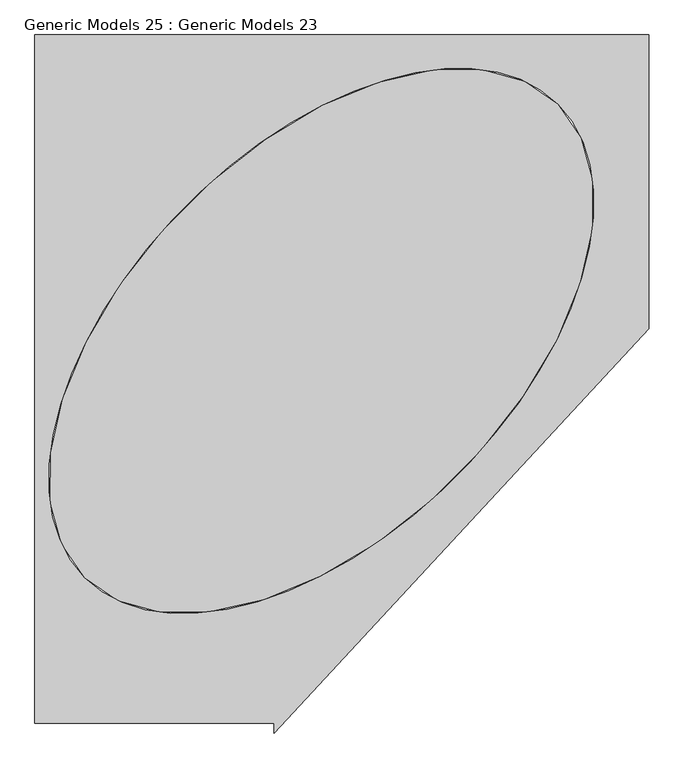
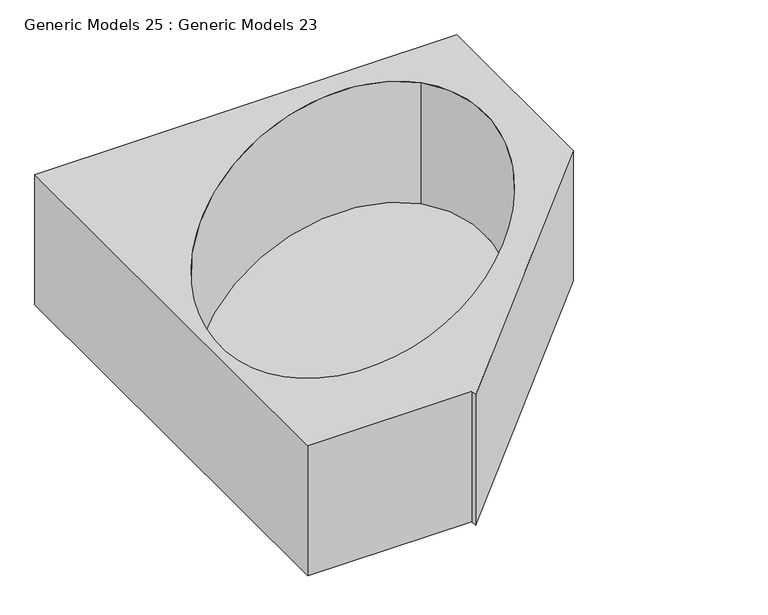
"""IFC4 building model written with IfcOpenShell, lengths in millimetres: proxy geometry, Generic Models 25 : Generic Models 23."""

from ifc_helpers import new_model, si_unit, point, frame, origin, place, context, project, spatial, ellipse_curve, trimmed, source, transform, mapped, element, save
from ifc_brep_helpers import plane_surface, extruded_surface, advanced_brep


def generic_models_25_generic_models_23_44e64f11(model_context):
    return source(origin(), model_context, "Body", "AdvancedBrep", [
        advanced_brep(
        [(-1758.95, 14477.8947939, 3784.6), (-1758.95, 12649.0947939, 3784.6), (-1123.95, 12649.0947939, 3784.6), (-1123.95, 12623.6947939, 3784.6), (-127.0, 13696.8447939, 3784.6), (-127.0, 14477.8947939, 3784.6), (-369.0158933, 14293.9147863, 3784.6), (-1626.2517503, 13036.6789293, 3784.6), (-1758.95, 14477.8947939, 3251.2), (-127.0, 14477.8947939, 3251.2), (-127.0, 13696.8447939, 3251.2), (-1111.25, 12637.3654945, 3251.2), (-1123.95, 12623.6947939, 3251.2), (-1123.95, 12649.0947939, 3251.2), (-1758.95, 12649.0947939, 3251.2), (-1123.95, 12623.6947939, 3378.2), (-369.0158933, 14293.9147863, 3289.3), (-1626.2517503, 13036.6789293, 3289.3)],
        [
            (0, 1),
            (1, 2),
            (2, 3),
            (3, 4),
            (4, 5),
            (5, 0),
            (6, 7, ellipse_curve(frame((-997.6338218, 13665.2968578, 3784.6), z_axis=(0.0, 0.0, -1.0000000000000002), x_axis=(-0.7071067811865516, -0.7071067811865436, 0.0)), 889.0, 508.0)),
            (7, 6, ellipse_curve(frame((-997.6338218, 13665.2968578, 3784.6), z_axis=(0.0, 0.0, -1.0000000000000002), x_axis=(-0.7071067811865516, -0.7071067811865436, 0.0)), 889.0, 508.0)),
            (8, 9),
            (9, 10),
            (10, 11),
            (11, 12),
            (12, 13),
            (13, 14),
            (14, 8),
            (0, 8),
            (14, 1),
            (3, 15),
            (15, 12),
            (10, 4),
            (9, 5),
            (16, 17, ellipse_curve(frame((-997.6338218, 13665.2968578, 3289.3), z_axis=(0.0, 0.0, 1.0000000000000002), x_axis=(-0.7071067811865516, -0.7071067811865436, 0.0)), 889.0, 508.0)),
            (17, 16, ellipse_curve(frame((-997.6338218, 13665.2968578, 3289.3), z_axis=(0.0, 0.0, 1.0000000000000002), x_axis=(-0.7071067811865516, -0.7071067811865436, 0.0)), 889.0, 508.0)),
            (17, 7),
            (6, 16),
            (13, 2),
        ],
        [
            plane_surface(frame((-1758.95, 12649.0947939, 3784.6), z_axis=(0.0, 0.0, 1.0), x_axis=(0.0, -1.0, 0.0))),
            plane_surface(frame((-1758.95, 12649.0947939, 3251.2), z_axis=(0.0, 0.0, -1.0), x_axis=(0.0, 1.0, 0.0))),
            plane_surface(frame((-1758.95, 14477.8947939, 3784.6), z_axis=(-1.0, 0.0, 0.0), x_axis=(0.0, 0.0, -1.0))),
            plane_surface(frame((-1123.95, 12623.6947939, 3784.6), z_axis=(0.7326390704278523, -0.6806173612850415, 0.0), x_axis=(0.0, 0.0, -1.0))),
            plane_surface(frame((-127.0, 13696.8447939, 3784.6), z_axis=(1.0, 0.0, 0.0), x_axis=(0.0, 0.0, -1.0))),
            plane_surface(frame((-127.0, 14477.8947939, 3784.6), z_axis=(0.0, 1.0, 0.0), x_axis=(0.0, 0.0, -1.0))),
            plane_surface(frame((-1626.2517503, 13036.6789293, 3289.3), z_axis=(0.0, 0.0, 1.0000000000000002), x_axis=(-0.7071067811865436, 0.7071067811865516, 0.0))),
            extruded_surface(trimmed(ellipse_curve(frame((-997.6338218, 13665.2968578, 3784.6), z_axis=(0.0, 0.0, -1.0000000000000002), x_axis=(-0.7071067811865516, -0.7071067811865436, 0.0)), 889.0, 508.0), [point((-369.0158933, 14293.9147863, 3784.6))], [point((-1626.2517503, 13036.6789293, 3784.6))], True, "CARTESIAN"), (0.0, 0.0, 495.2999999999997), 495.2999999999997),
            extruded_surface(trimmed(ellipse_curve(frame((-997.6338218, 13665.2968578, 3784.6), z_axis=(0.0, 0.0, -1.0000000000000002), x_axis=(-0.7071067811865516, -0.7071067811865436, 0.0)), 889.0, 508.0), [point((-1626.2517503, 13036.6789293, 3784.6))], [point((-369.0158933, 14293.9147863, 3784.6))], True, "CARTESIAN"), (0.0, 0.0, 495.2999999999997), 495.2999999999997),
            plane_surface(frame((-1758.95, 12649.0947939, 3784.6), z_axis=(0.0, -1.0, 0.0), x_axis=(0.0, 0.0, -1.0))),
            plane_surface(frame((-1123.95, 12649.0947939, 3784.6), z_axis=(-1.0, 0.0, 0.0), x_axis=(0.0, 0.0, -1.0))),
        ],
        [
            (0, [[1, 2, 3, 4, 5, 6], [7, 8]]),
            (1, [[9, 10, 11, 12, 13, 14, 15]]),
            (2, [[-1, 16, -15, 17]]),
            (3, [[-4, 18, 19, -12, -11, 20]]),
            (4, [[-5, -20, -10, 21]]),
            (5, [[-6, -21, -9, -16]]),
            (6, [[22, 23]]),
            (7, [[-23, 24, -7, 25]]),
            (8, [[-22, -25, -8, -24]]),
            (9, [[-2, -17, -14, 26]]),
            (10, [[-3, -26, -13, -19, -18]]),
        ],
    ),
    ])


if __name__ == "__main__":
    model = new_model("IFC4")
    model_context = context("Model", 3, world=origin())
    ifc_project = project(units=[si_unit("LENGTHUNIT", "METRE", prefix="MILLI")], contexts=[model_context])
    site = spatial("IfcSite", under=ifc_project)
    building = spatial("IfcBuilding", under=site)
    placement = place(None, origin())
    generic_models_25_generic_models_23_shape = generic_models_25_generic_models_23_44e64f11(model_context)
    element("IfcBuildingElementProxy", 1, Name="Generic Models 25 : Generic Models 23", ObjectType="Generic Models 25 : Generic Models 23", at=placement, inside=building, context=model_context, shape_type="MappedRepresentation", body=[
        mapped(generic_models_25_generic_models_23_shape, transform((0.0, 0.0, 0.0), x_axis=(1.0, 0.0, 0.0), y_axis=(0.0, 1.0, 0.0), z_axis=(0.0, 0.0, 1.0))),
    ])
    save(model, "model.ifc")
